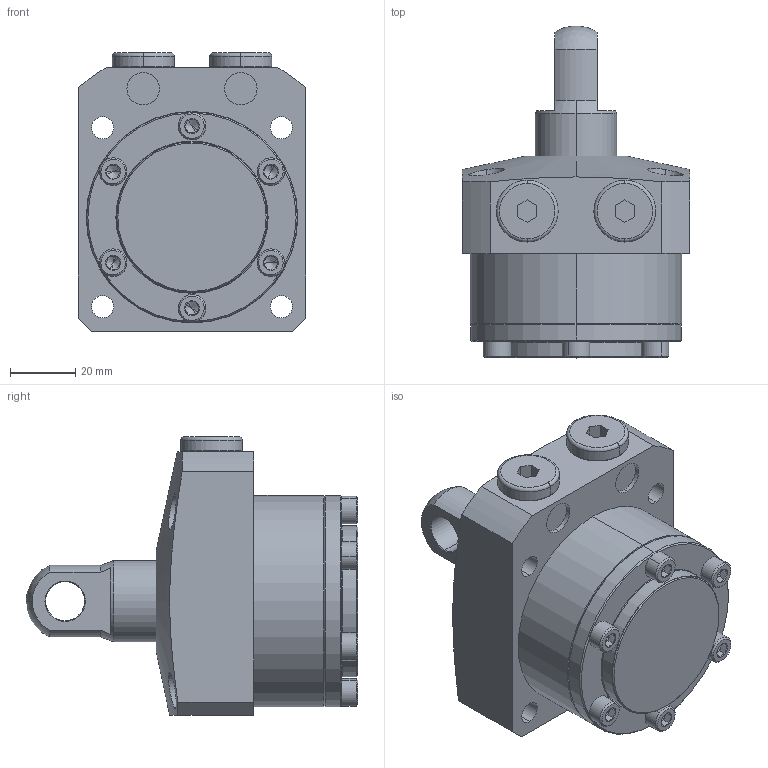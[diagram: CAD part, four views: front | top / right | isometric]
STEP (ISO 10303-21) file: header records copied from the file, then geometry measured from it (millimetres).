
FILE_DESCRIPTION (( 'STEP AP203' ), '1' );
FILE_NAME ('680650-CP-015.step', '2016-11-02T03:25:39', ( 'wxp' ), ( '' ), 'SwSTEP 2.0', 'SolidWorks 2011', '' );
FILE_SCHEMA (( 'CONFIG_CONTROL_DESIGN' ));
Length unit declared in the file: millimetre
Products named in the file (6): 葩璃 68065-CA-15-5^680650-CP-015; 葩璃 68065-CA-15-4^680650-CP-015; 葩璃 68065-CA-15-3^680650-CP-015; 葩璃 68065-CA-15-1^680650-CP-015; 680650-CP-015; 葩璃 680650-CA-15-14^680650-CP-015
Assembly tree (11 placements, depth 2):
  680650-CP-015
    葩璃 68065-CA-15-1^680650-CP-015
    葩璃 680650-CA-15-14^680650-CP-015
    葩璃 68065-CA-15-3^680650-CP-015
    葩璃 68065-CA-15-4^680650-CP-015  x6
    葩璃 68065-CA-15-5^680650-CP-015  x2
Bounding box: 70 x 102 x 85.5 mm (x, y, z)
Volume: 252032.8 mm3; surface area: 45444.5 mm2
Topology: 11 solids, 11 shells, 342 faces, 672 edges, 368 vertices
Faces by surface type: plane 137, cone 96, cylinder 91, torus 16, sphere 2
Entity records: 5638 total; most frequent: CARTESIAN_POINT 1183, DIRECTION 853, ORIENTED_EDGE 692, AXIS2_PLACEMENT_3D 358, EDGE_CURVE 346, VERTEX_POINT 211, EDGE_LOOP 199, CIRCLE 183
